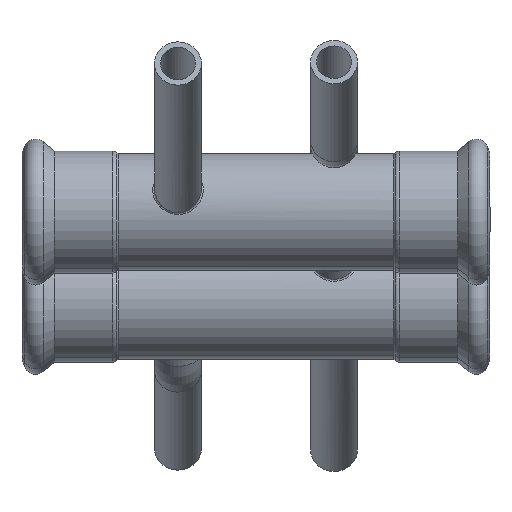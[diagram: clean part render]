
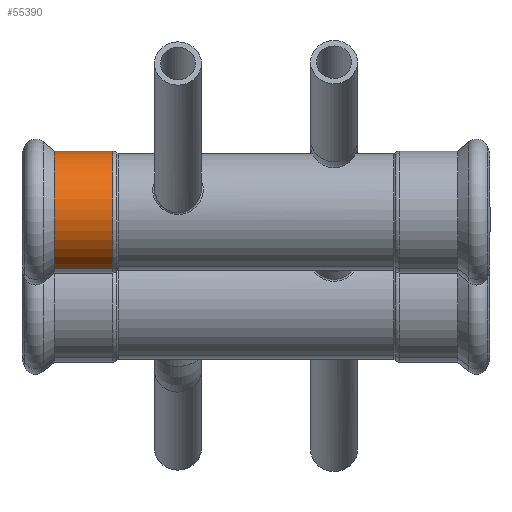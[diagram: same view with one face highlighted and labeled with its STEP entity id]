
A CAD part, top view. The second image highlights one B-rep face of the part: STEP entity #55390.
In plain terms, the highlighted cylindrical face has radius 15.65 mm (diameter 31.3 mm), a partial arc.
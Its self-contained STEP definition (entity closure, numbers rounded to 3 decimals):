
#54410=CARTESIAN_POINT('',(22.114,178.546,0.));
#54420=VERTEX_POINT('',#54410);
#54470=CARTESIAN_POINT('',(22.114,194.196,0.));
#54480=DIRECTION('',(1.,0.,0.));
#54490=DIRECTION('',(0.,-1.,0.));
#54500=AXIS2_PLACEMENT_3D('',#54470,#54480,#54490);
#54510=CIRCLE('',#54500,15.65);
#54520=CARTESIAN_POINT('',(22.114,209.846,
0.));
#54530=VERTEX_POINT('',#54520);
#54540=EDGE_CURVE('',#54530,#54420,#54510,.T.);
#54860=CARTESIAN_POINT('',(7.05,178.546,0.));
#54870=VERTEX_POINT('',#54860);
#55040=CARTESIAN_POINT('',(7.05,209.846,0.));
#55050=VERTEX_POINT('',#55040);
#55080=CARTESIAN_POINT('',(7.05,194.196,0.));
#55090=DIRECTION('',(1.,0.,0.));
#55100=DIRECTION('',(0.,-1.,-0.));
#55110=AXIS2_PLACEMENT_3D('',#55080,#55090,#55100);
#55120=CIRCLE('',#55110,15.65);
#55130=EDGE_CURVE('',#55050,#54870,#55120,.T.);
#55180=CARTESIAN_POINT('',(14.582,194.196,0.));
#55190=DIRECTION('',(1.,0.,0.));
#55200=DIRECTION('',(-0.,-1.,-0.));
#55210=AXIS2_PLACEMENT_3D('',#55180,#55190,#55200);
#55220=CYLINDRICAL_SURFACE('',#55210,15.65);
#55230=CARTESIAN_POINT('',(14.582,178.546,0.));
#55240=DIRECTION('',(1.,0.,0.));
#55250=VECTOR('',#55240,1.);
#55260=LINE('',#55230,#55250);
#55270=EDGE_CURVE('',#54870,#54420,#55260,.T.);
#55280=ORIENTED_EDGE('',*,*,#55270,.T.);
#55290=ORIENTED_EDGE('',*,*,#55130,.T.);
#55300=CARTESIAN_POINT('',(14.582,209.846,
0.));
#55310=DIRECTION('',(1.,0.,0.));
#55320=VECTOR('',#55310,1.);
#55330=LINE('',#55300,#55320);
#55340=EDGE_CURVE('',#55050,#54530,#55330,.T.);
#55350=ORIENTED_EDGE('',*,*,#55340,.F.);
#55360=ORIENTED_EDGE('',*,*,#54540,.F.);
#55370=EDGE_LOOP('',(#55360,#55350,#55290,#55280));
#55380=FACE_OUTER_BOUND('',#55370,.T.);
#55390=ADVANCED_FACE('',(#55380),#55220,.T.);
